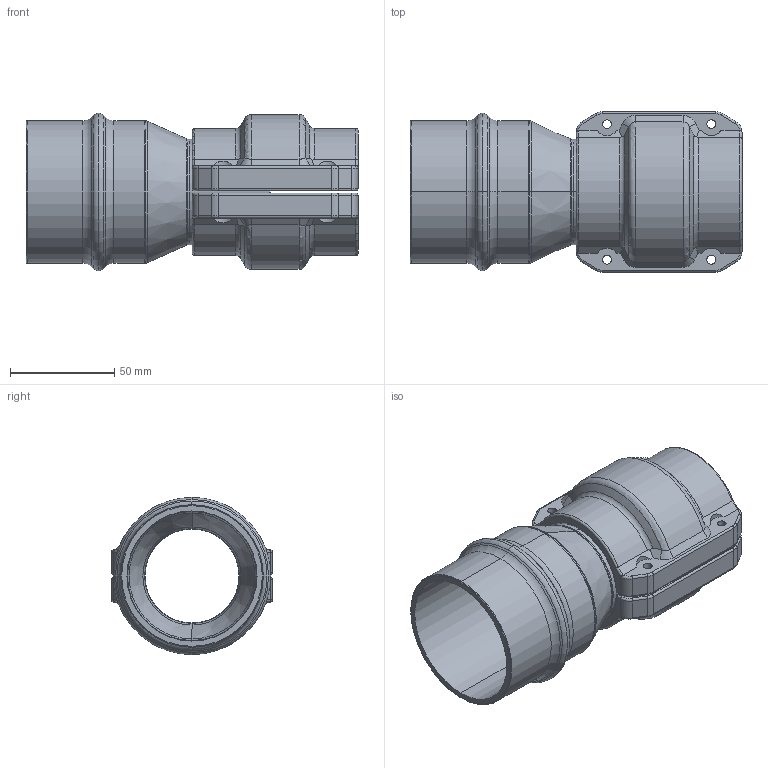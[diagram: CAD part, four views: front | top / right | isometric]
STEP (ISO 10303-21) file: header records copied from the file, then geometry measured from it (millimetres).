
FILE_DESCRIPTION((''),'2;1');
FILE_NAME('2015652199_ASM','2017-05-12T',('Administrator'),(''),'PRO/ENGINEER BY PARAMETRIC TECHNOLOGY CORPORATION, 2009360','PRO/ENGINEER BY PARAMETRIC TECHNOLOGY CORPORATION, 2009360','');
FILE_SCHEMA(('AUTOMOTIVE_DESIGN_CC2 { 1 2 10303 214 -1 1 5 2 }'));
Length unit declared in the file: millimetre
Products named in the file (5): 2015652100; 201550020001; 201550020000; 2015500200_ASM; 2015652199_ASM
Assembly tree (4 placements, depth 3):
  2015652199_ASM
    2015652100
    2015500200_ASM
      201550020001
      201550020000
Bounding box: 159.2 x 77 x 75.45 mm (x, y, z)
Volume: 207946.6 mm3; surface area: 82929.5 mm2
Topology: 3 solids, 3 shells, 264 faces, 644 edges, 386 vertices
Faces by surface type: cylinder 102, torus 80, plane 38, bspline 24, cone 12, sphere 8
Entity records: 10794 total; most frequent: CARTESIAN_POINT 2542, DIRECTION 1372, ORIENTED_EDGE 1288, PRESENTATION_STYLE_ASSIGNMENT 647, STYLED_ITEM 647, CURVE_STYLE 644, EDGE_CURVE 644, AXIS2_PLACEMENT_3D 585
